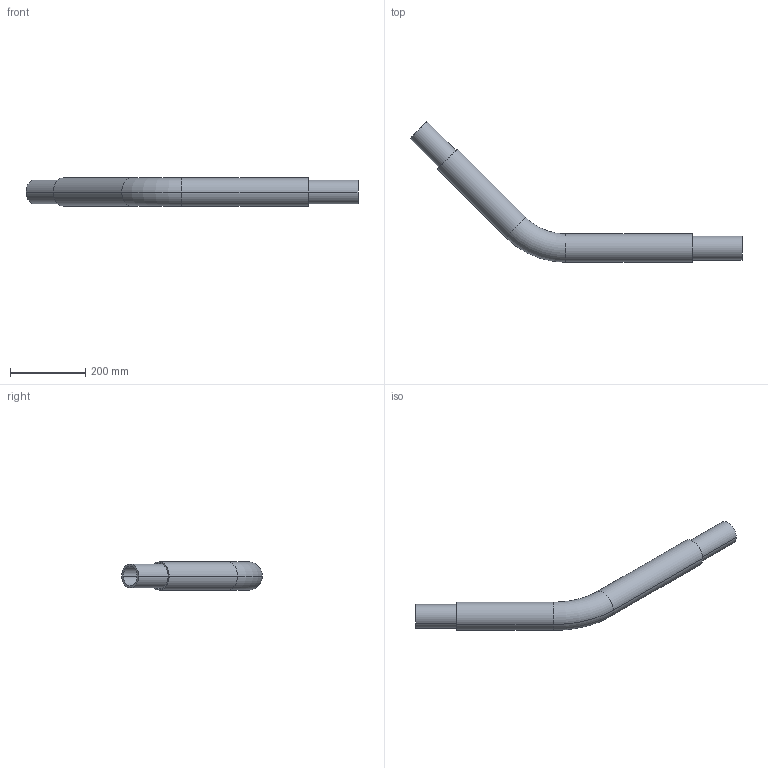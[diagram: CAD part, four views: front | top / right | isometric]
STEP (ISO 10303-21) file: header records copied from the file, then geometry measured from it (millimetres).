
FILE_DESCRIPTION (( 'STEP AP203' ), '1' );
FILE_NAME ('KP_4-75-63SC.step', '2011-08-08T11:40:36', ( '' ), ( '' ), 'SwSTEP 2.0', 'SolidWorks 2011', '' );
FILE_SCHEMA (( 'CONFIG_CONTROL_DESIGN' ));
Length unit declared in the file: millimetre
Products named in the file (1): KP_4-75-63SC
Bounding box: 880 x 372.5 x 75 mm (x, y, z)
Volume: 1625507.3 mm3; surface area: 687059.5 mm2
Topology: 2 solids, 2 shells, 28 faces, 56 edges, 32 vertices
Faces by surface type: cylinder 16, torus 8, plane 4
Entity records: 815 total; most frequent: DIRECTION 154, CARTESIAN_POINT 117, ORIENTED_EDGE 112, AXIS2_PLACEMENT_3D 69, EDGE_CURVE 56, CIRCLE 40, EDGE_LOOP 32, VERTEX_POINT 32
